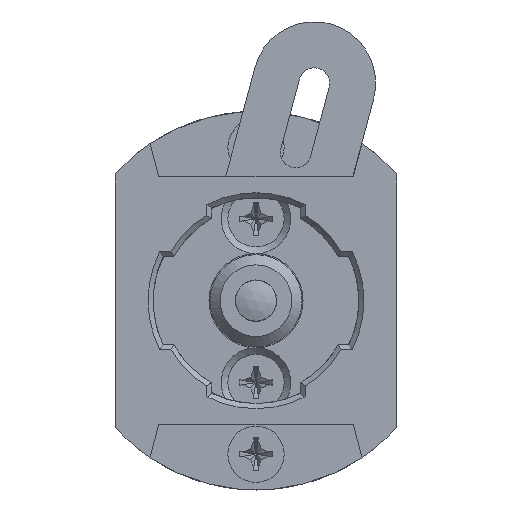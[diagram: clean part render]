
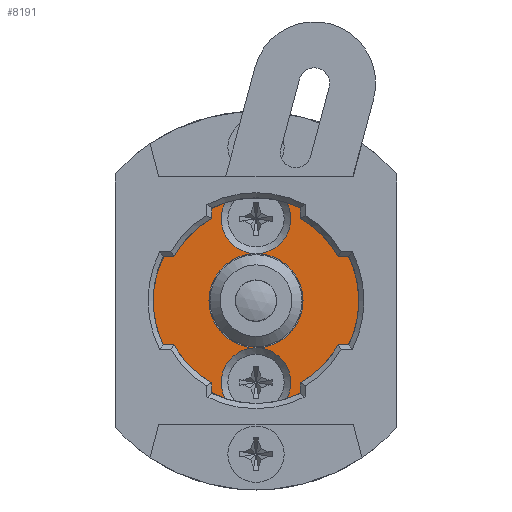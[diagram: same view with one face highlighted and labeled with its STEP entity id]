
A CAD part, left-side view. The second image highlights one B-rep face of the part: STEP entity #8191.
In plain terms, the highlighted planar face has unit normal (-1, 0, 0).
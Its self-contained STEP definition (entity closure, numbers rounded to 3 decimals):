
#353=CIRCLE('',#8703,18.5);
#354=CIRCLE('',#8706,18.5);
#355=CIRCLE('',#8709,1.53);
#356=CIRCLE('',#8710,1.53);
#357=CIRCLE('',#8711,4.6);
#358=CIRCLE('',#8712,3.4);
#359=CIRCLE('',#8713,4.6);
#360=CIRCLE('',#8714,3.4);
#1208=ORIENTED_EDGE('',*,*,#2524,.T.);
#1209=ORIENTED_EDGE('',*,*,#2525,.T.);
#1210=ORIENTED_EDGE('',*,*,#2517,.T.);
#1211=ORIENTED_EDGE('',*,*,#2523,.T.);
#1212=ORIENTED_EDGE('',*,*,#2521,.T.);
#1213=ORIENTED_EDGE('',*,*,#2519,.T.);
#1214=ORIENTED_EDGE('',*,*,#2526,.T.);
#1215=ORIENTED_EDGE('',*,*,#2527,.T.);
#1216=ORIENTED_EDGE('',*,*,#2528,.T.);
#1217=ORIENTED_EDGE('',*,*,#2529,.T.);
#2517=EDGE_CURVE('',#3258,#3257,#353,.T.);
#2519=EDGE_CURVE('',#3259,#3258,#3775,.T.);
#2521=EDGE_CURVE('',#3260,#3259,#354,.T.);
#2523=EDGE_CURVE('',#3257,#3260,#3778,.T.);
#2524=EDGE_CURVE('',#3261,#3261,#355,.F.);
#2525=EDGE_CURVE('',#3262,#3262,#356,.F.);
#2526=EDGE_CURVE('',#3263,#3264,#357,.T.);
#2527=EDGE_CURVE('',#3264,#3264,#358,.T.);
#2528=EDGE_CURVE('',#3264,#3263,#359,.T.);
#2529=EDGE_CURVE('',#3263,#3263,#360,.T.);
#3257=VERTEX_POINT('',#12584);
#3258=VERTEX_POINT('',#12586);
#3259=VERTEX_POINT('',#12590);
#3260=VERTEX_POINT('',#12594);
#3261=VERTEX_POINT('',#12600);
#3262=VERTEX_POINT('',#12602);
#3263=VERTEX_POINT('',#12604);
#3264=VERTEX_POINT('',#12605);
#3775=LINE('',#12589,#4303);
#3778=LINE('',#12597,#4306);
#4303=VECTOR('',#9812,1000.);
#4306=VECTOR('',#9821,1000.);
#4901=EDGE_LOOP('',(#1208));
#4902=EDGE_LOOP('',(#1209));
#4903=EDGE_LOOP('',(#1210,#1211,#1212,#1213));
#4904=EDGE_LOOP('',(#1214,#1215,#1216,#1217));
#5469=FACE_BOUND('',#4901,.T.);
#5470=FACE_BOUND('',#4902,.T.);
#5471=FACE_BOUND('',#4903,.T.);
#5472=FACE_BOUND('',#4904,.T.);
#5854=PLANE('',#8708);
#8191=ADVANCED_FACE('',(#5469,#5470,#5471,#5472),#5854,.T.);
#8703=AXIS2_PLACEMENT_3D('',#12585,#9807,#9808);
#8706=AXIS2_PLACEMENT_3D('',#12593,#9816,#9817);
#8708=AXIS2_PLACEMENT_3D('',#12598,#9822,#9823);
#8709=AXIS2_PLACEMENT_3D('',#12599,#9824,#9825);
#8710=AXIS2_PLACEMENT_3D('',#12601,#9826,#9827);
#8711=AXIS2_PLACEMENT_3D('',#12603,#9828,#9829);
#8712=AXIS2_PLACEMENT_3D('',#12606,#9830,#9831);
#8713=AXIS2_PLACEMENT_3D('',#12607,#9832,#9833);
#8714=AXIS2_PLACEMENT_3D('',#12608,#9834,#9835);
#9807=DIRECTION('',(-1.,0.,0.));
#9808=DIRECTION('',(0.,0.741,-0.672));
#9812=DIRECTION('',(0.,0.,-1.));
#9816=DIRECTION('',(-1.,0.,0.));
#9817=DIRECTION('',(0.,-0.741,0.672));
#9821=DIRECTION('',(0.,0.,1.));
#9822=DIRECTION('',(-1.,0.,0.));
#9823=DIRECTION('',(0.,0.,-1.));
#9824=DIRECTION('',(-1.,0.,0.));
#9825=DIRECTION('',(0.,0.,-1.));
#9826=DIRECTION('',(-1.,0.,0.));
#9827=DIRECTION('',(0.,0.,-1.));
#9828=DIRECTION('',(1.,0.,0.));
#9829=DIRECTION('',(0.,0.,1.));
#9830=DIRECTION('',(1.,0.,0.));
#9831=DIRECTION('',(0.,0.,-1.));
#9832=DIRECTION('',(1.,0.,0.));
#9833=DIRECTION('',(0.,0.,-1.));
#9834=DIRECTION('',(1.,0.,0.));
#9835=DIRECTION('',(0.,0.,1.));
#12584=CARTESIAN_POINT('',(-44.,-13.7,-12.432));
#12585=CARTESIAN_POINT('',(-44.,0.,0.));
#12586=CARTESIAN_POINT('',(-44.,13.7,-12.432));
#12589=CARTESIAN_POINT('',(-44.,13.7,12.432));
#12590=CARTESIAN_POINT('',(-44.,13.7,12.432));
#12593=CARTESIAN_POINT('',(-44.,0.,0.));
#12594=CARTESIAN_POINT('',(-44.,-13.7,12.432));
#12597=CARTESIAN_POINT('',(-44.,-13.7,-12.432));
#12598=CARTESIAN_POINT('',(-44.,13.7,18.661));
#12599=CARTESIAN_POINT('',(-44.,0.,15.));
#12600=CARTESIAN_POINT('',(-44.,0.,13.47));
#12601=CARTESIAN_POINT('',(-44.,0.,-15.));
#12602=CARTESIAN_POINT('',(-44.,0.,-16.53));
#12603=CARTESIAN_POINT('',(-44.,0.,0.));
#12604=CARTESIAN_POINT('',(-44.,0.,4.6));
#12605=CARTESIAN_POINT('',(-44.,0.,-4.6));
#12606=CARTESIAN_POINT('',(-44.,0.,-8.));
#12607=CARTESIAN_POINT('',(-44.,0.,0.));
#12608=CARTESIAN_POINT('',(-44.,0.,8.));
